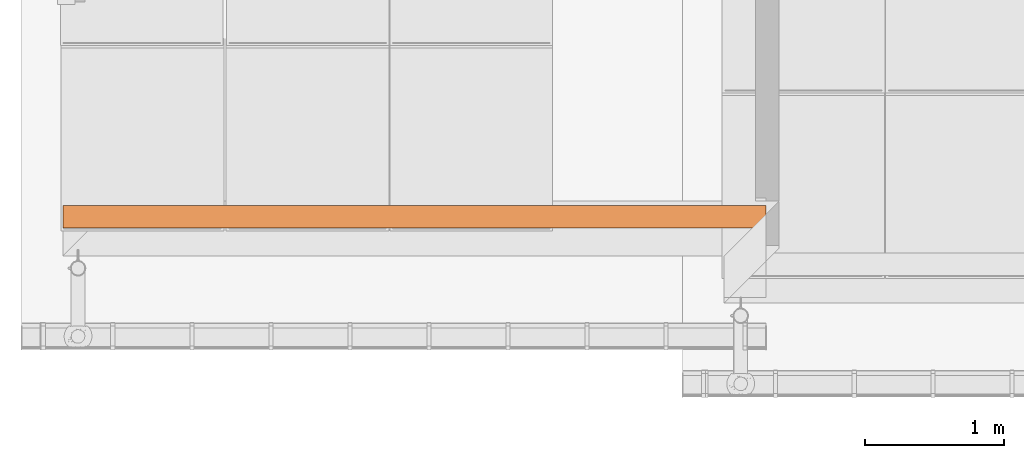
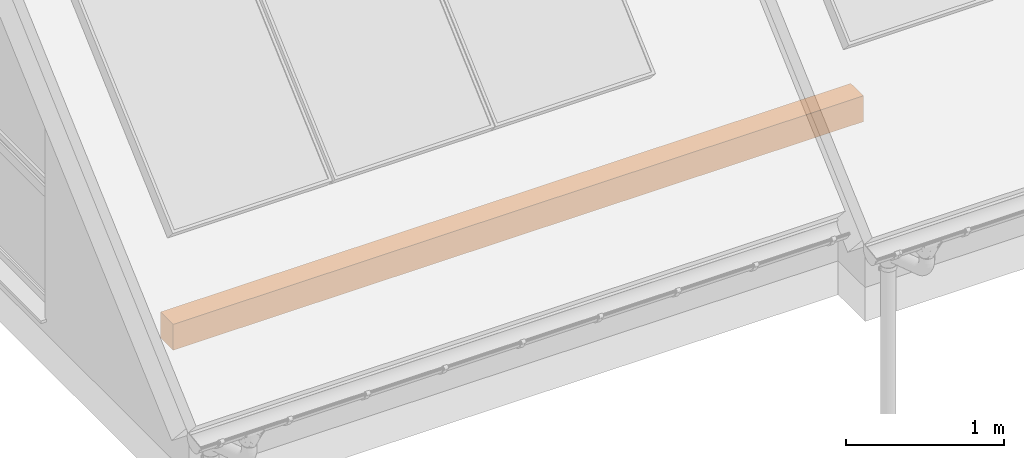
# One storey, part 17 of 43: 1 proxy.
"""IFC2X3 building model written with IfcOpenShell, lengths in millimetres."""

from ifc_helpers import new_model, si_unit, frame, origin_with_axes, place, context, project, spatial, faceted_brep, element, save


model = new_model("IFC2X3")

# Units and contexts
model_context = context("Model", 3, world=origin_with_axes())
ifc_project = project(units=[si_unit("LENGTHUNIT", "METRE", prefix="MILLI")], contexts=[model_context])

# Site, building, storey
site_placement = place(None, origin_with_axes())
site = spatial("IfcSite", under=ifc_project, at=site_placement, Name="Site", CompositionType="ELEMENT")
building_placement = place(site_placement, origin_with_axes())
building = spatial("IfcBuilding", under=site, at=building_placement, Name="?", CompositionType="ELEMENT")
storey_placement = place(building_placement, frame((0.0, 0.0, 5938.0), z_axis=(0.0, 0.0, 1.0), x_axis=(1.0, 0.0, 0.0)))
storey = spatial("IfcBuildingStorey", under=building, at=storey_placement, Name="Dachgeschoß", CompositionType="ELEMENT", Elevation=5938.0)

# Proxy
proxy_placement = place(None, origin_with_axes())
element("IfcBuildingElementProxy", 1, at=proxy_placement, inside=storey, Name="Dach04_KneePurlin#001", ObjectType="purlin", CompositionType="ELEMENT", context=model_context, shape_type="Brep", body=[
    faceted_brep([(5050.0, -6055.0, 6788.0), (0.0, -6055.0, 6788.0), (0.0, -6055.0, 6988.0), (5050.0, -6055.0, 6988.0), (5050.0, -6055.0, 6788.0), (5050.0, -6055.0, 6988.0), (5050.0, -6215.0, 6988.0), (5050.0, -6215.0, 6788.0), (0.0, -6055.0, 6788.0), (5050.0, -6055.0, 6788.0), (5050.0, -6215.0, 6788.0), (0.0, -6215.0, 6788.0), (0.0, -6055.0, 6988.0), (0.0, -6055.0, 6788.0), (0.0, -6215.0, 6788.0), (0.0, -6215.0, 6988.0), (5050.0, -6055.0, 6988.0), (0.0, -6055.0, 6988.0), (0.0, -6215.0, 6988.0), (5050.0, -6215.0, 6988.0), (5050.0, -6215.0, 6788.0), (5050.0, -6215.0, 6988.0), (0.0, -6215.0, 6988.0), (0.0, -6215.0, 6788.0)], [[[0, 1, 2, 3]], [[4, 5, 6, 7]], [[8, 9, 10, 11]], [[12, 13, 14, 15]], [[16, 17, 18, 19]], [[20, 21, 22, 23]]]),
])

save(model, "model.ifc")
